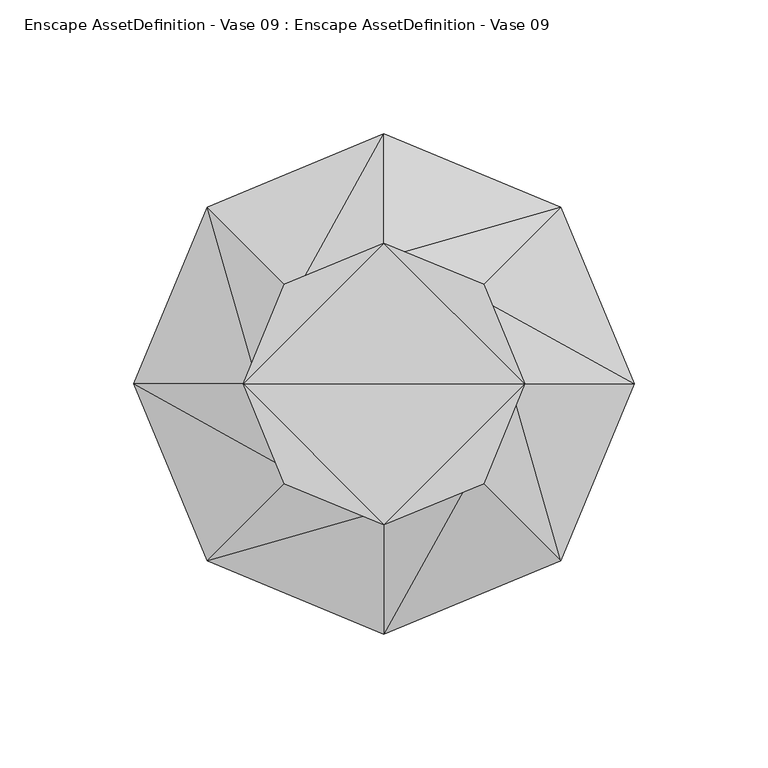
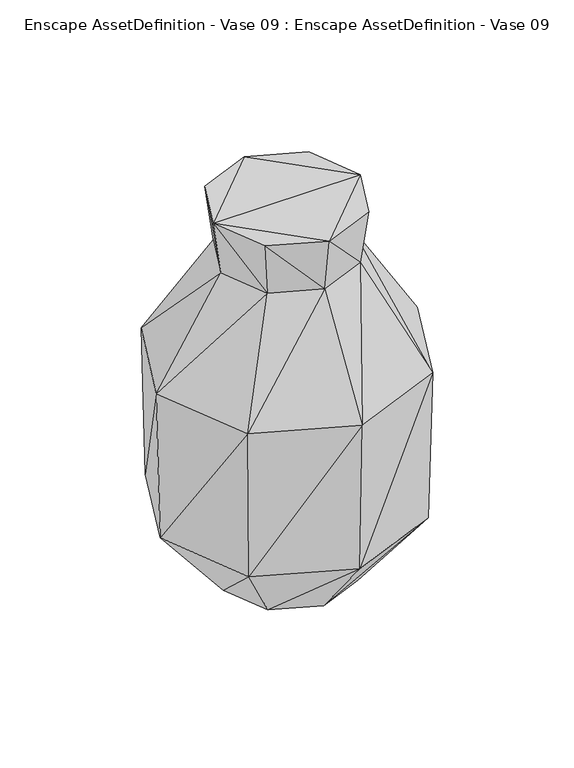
"""IFC4 building model written with IfcOpenShell, lengths in millimetres: geographic element geometry, Enscape AssetDefinition - Vase 09 : Enscape AssetDefinition - Vase 09."""

import ifcopenshell
import ifcopenshell.guid

model = None  # the IFC model being written
_history = None  # IfcOwnerHistory: only IFC2X3 demands one
_inside = {}  # id of a spatial element -> (the spatial element, [elements in it])
_under = {}  # id of a project, library or spatial element -> (it, [spatial elements below it])
_declared = {}  # id of a project -> (the project, [libraries it declares])
_typed = {}  # id of a type object -> (the type object, [elements of that type])
_made_of = {}  # id of a material, layer set ... -> (it, [elements and type objects made of it])


def new_model(schema):
    """Start an empty IFC model of exactly this schema.

    Asked for "IFC4X3", IfcOpenShell would pick the latest addendum, in which some entities
    have other attributes; the version numbers below select the first issue.
    IFC2X3 requires an IfcOwnerHistory on every rooted entity: one is made here for all.
    """
    global model, _history
    if schema == "IFC4X3":
        model = ifcopenshell.file(schema_version=(4, 3, 0, 0))
    else:
        model = ifcopenshell.file(schema=schema)
    _inside.clear()
    _under.clear()
    _declared.clear()
    _typed.clear()
    _made_of.clear()
    _history = None
    if model.schema == "IFC2X3":
        org = make("IfcOrganization", Name="unknown")
        user = make(
            "IfcPersonAndOrganization",
            ThePerson=make("IfcPerson", FamilyName="unknown"),
            TheOrganization=org,
        )
        app = make(
            "IfcApplication",
            ApplicationDeveloper=org,
            Version="unknown",
            ApplicationFullName="unknown",
            ApplicationIdentifier="unknown",
        )
        _history = make(
            "IfcOwnerHistory",
            OwningUser=user,
            OwningApplication=app,
            ChangeAction="ADDED",
            CreationDate=0,
        )
    return model


def make(cls, **values):
    """One entity of the class cls with the attributes given. An attribute that is None is left unset."""
    return model.create_entity(
        cls, **{name: value for name, value in values.items() if value is not None}
    )


def rooted(cls, **values):
    """An entity with a GlobalId (a new one), such as an element, a storey or a relation."""
    return make(cls, GlobalId=ifcopenshell.guid.new(), OwnerHistory=_history, **values)


def si_unit(unit_type, name, prefix=None):
    """IfcSIUnit, for example si_unit("LENGTHUNIT", "METRE", prefix="MILLI")."""
    return make("IfcSIUnit", UnitType=unit_type, Prefix=prefix, Name=name)


def assignment(units):
    """IfcUnitAssignment: the units of a project."""
    return None if units is None else make("IfcUnitAssignment", Units=units)


def point(xyz):
    """IfcCartesianPoint."""
    return None if xyz is None else make("IfcCartesianPoint", Coordinates=xyz)


def direction(xyz):
    """IfcDirection."""
    return None if xyz is None else make("IfcDirection", DirectionRatios=xyz)


def frame(location, z_axis=None, x_axis=None):
    """IfcAxis2Placement3D, a coordinate frame: its origin and axes. An axis left out is left unset."""
    return make(
        "IfcAxis2Placement3D",
        Location=point(location),
        Axis=direction(z_axis),
        RefDirection=direction(x_axis),
    )


def origin():
    """The frame at (0, 0, 0) with its axes left unset."""
    return frame((0.0, 0.0, 0.0))


def place(relative_to, where):
    """IfcLocalPlacement: puts the frame where relative to a parent placement (None: the world)."""
    return make(
        "IfcLocalPlacement", PlacementRelTo=relative_to, RelativePlacement=where
    )


def context(
    kind, dimensions, precision=None, world=None, true_north=None, identifier=None
):
    """IfcGeometricRepresentationContext, for example the 3D "Model" context."""
    return make(
        "IfcGeometricRepresentationContext",
        ContextIdentifier=identifier,
        ContextType=kind,
        CoordinateSpaceDimension=dimensions,
        Precision=precision,
        WorldCoordinateSystem=world,
        TrueNorth=true_north,
    )


def project(units=None, contexts=None):
    """IfcProject with its units and contexts."""
    return rooted(
        "IfcProject",
        Name="project",
        RepresentationContexts=contexts,
        UnitsInContext=assignment(units),
    )


def spatial(cls, under=None, at=None, **own):
    """A site, building, storey or space (cls), placed at a placement, below another one or the project."""
    s = rooted(cls, ObjectPlacement=at, **own)
    if under is not None:
        _under.setdefault(under.id(), (under, []))[1].append(s)
    return s


def faces_of(points, faces, orient=None, outer=None):
    """IfcFace entities. A face is a list of loops; a loop is a list of indices into points, from 0.

    orient and outer hold one flag for each loop. By default every Orientation is true, the
    first loop of a face is its IfcFaceOuterBound and the others are IfcFaceBound.
    """
    made = []
    for i, loops in enumerate(faces):
        bounds = []
        for j, loop in enumerate(loops):
            is_outer = j == 0 if outer is None else outer[i][j]
            bounds.append(
                make(
                    "IfcFaceOuterBound" if is_outer else "IfcFaceBound",
                    Bound=make("IfcPolyLoop", Polygon=[points[k] for k in loop]),
                    Orientation=True if orient is None else orient[i][j],
                )
            )
        made.append(make("IfcFace", Bounds=bounds))
    return made


def faceted_brep(points, faces, orient=None, outer=None, voids=None):
    """IfcFacetedBrep: a solid bounded by flat faces; with voids (closed shells), ...WithVoids."""
    shared = [point(p) for p in points]
    hull = make("IfcClosedShell", CfsFaces=faces_of(shared, faces, orient, outer))
    if voids is None:
        return make("IfcFacetedBrep", Outer=hull)
    return make(
        "IfcFacetedBrepWithVoids",
        Outer=hull,
        Voids=[
            make(cls, CfsFaces=faces_of(shared, fs, o, b)) for cls, fs, o, b in voids
        ],
    )


def shape(context_of_items, identifier, shape_type, items):
    """IfcShapeRepresentation: the items that make up one representation, for example the "Body"."""
    return make(
        "IfcShapeRepresentation",
        ContextOfItems=context_of_items,
        RepresentationIdentifier=identifier,
        RepresentationType=shape_type,
        Items=items,
    )


def source(mapping_origin, context_of_items, identifier, shape_type, items):
    """IfcRepresentationMap: a shape defined once, which mapped items show again and again."""
    return make(
        "IfcRepresentationMap",
        MappingOrigin=mapping_origin,
        MappedRepresentation=shape(context_of_items, identifier, shape_type, items),
    )


def transform(
    local_origin,
    x_axis=None,
    y_axis=None,
    z_axis=None,
    scale=None,
    scale2=None,
    scale3=None,
    uniform=True,
):
    """IfcCartesianTransformationOperator3D, or its non-uniform kind. x_axis, y_axis, z_axis: its Axis1, 2, 3."""
    if uniform:
        return make(
            "IfcCartesianTransformationOperator3D",
            Axis1=direction(x_axis),
            Axis2=direction(y_axis),
            LocalOrigin=point(local_origin),
            Scale=scale,
            Axis3=direction(z_axis),
        )
    return make(
        "IfcCartesianTransformationOperator3DnonUniform",
        Axis1=direction(x_axis),
        Axis2=direction(y_axis),
        LocalOrigin=point(local_origin),
        Scale=scale,
        Axis3=direction(z_axis),
        Scale2=scale2,
        Scale3=scale3,
    )


def mapped(mapping_source, mapping_target):
    """IfcMappedItem: shows the shape of a source again, moved by a transform."""
    return make(
        "IfcMappedItem", MappingSource=mapping_source, MappingTarget=mapping_target
    )


def made_of(thing, what):
    """Note that an element or type object is made of a material, layer set ...; save() writes the relation."""
    if what is not None:
        _made_of.setdefault(what.id(), (what, []))[1].append(thing)
    return thing


def element(
    cls,
    number,
    at=None,
    inside=None,
    cuts=None,
    type_object=None,
    material=None,
    context=None,
    identifier="Body",
    shape_type=None,
    held_by="IfcProductDefinitionShape",
    body=None,
    shapes=None,
    **own,
):
    """One element of the class cls, such as IfcWall. Its Tag is "e" and its number.

    at: its placement. inside: the storey or other place that contains it. cuts: it is an
    opening in that element (IfcRelVoidsElement). A single representation is given by context,
    identifier, shape_type and body (its items); several are given by shapes. held_by: the class
    of the entity that holds the representations. save() writes the other relations.
    """
    e = rooted(cls, Tag="e%d" % number, ObjectPlacement=at, **own)
    if body is not None:
        shapes = [shape(context, identifier, shape_type, body)]
    if shapes is not None:
        e.Representation = make(held_by, Representations=shapes)
    if inside is not None:
        _inside.setdefault(inside.id(), (inside, []))[1].append(e)
    if cuts is not None:
        rooted(
            "IfcRelVoidsElement", RelatingBuildingElement=cuts, RelatedOpeningElement=e
        )
    if type_object is not None:
        _typed.setdefault(type_object.id(), (type_object, []))[1].append(e)
    return made_of(e, material)


def aggregate(whole, parts):
    """IfcRelAggregates: a whole, such as a stair, and the parts it consists of."""
    return rooted("IfcRelAggregates", RelatingObject=whole, RelatedObjects=parts)


def save(model, path):
    """Write the relations noted so far, then the file.

    IfcRelAggregates (storeys below a building ...), IfcRelContainedInSpatialStructure (elements
    in a storey), IfcRelDefinesByType, IfcRelAssociatesMaterial and IfcRelDeclares: one each for
    every whole, place, type object, material and project.
    """
    for whole, parts in _under.values():
        aggregate(whole, parts)
    for where, things in _inside.values():
        rooted(
            "IfcRelContainedInSpatialStructure",
            RelatedElements=things,
            RelatingStructure=where,
        )
    for kind, things in _typed.values():
        rooted("IfcRelDefinesByType", RelatedObjects=things, RelatingType=kind)
    for what, things in _made_of.values():
        rooted("IfcRelAssociatesMaterial", RelatedObjects=things, RelatingMaterial=what)
    for by, libraries in _declared.values():
        rooted("IfcRelDeclares", RelatingContext=by, RelatedDefinitions=libraries)
    model.write(path)


def enscape_assetdefinition_vase_09_enscape_assetdefinition_vase_b8f886cf(model_context):
    return source(origin(), model_context, "Body", "Brep", [
        faceted_brep([(90.3441086, 0.0, 55.3486086), (45.3222804, 0.0, 0.0), (63.7975186, 64.0899688, 55.3486086), (31.9618583, 32.2543047, 0.0), (31.9618583, -32.2543047, 0.0), (-0.292447, 90.6365514, 55.3486086), (65.8045933, 66.097036, 165.5040085), (-0.292447, 93.4748948, 165.5040085), (93.1824446, 0.0, 165.5040085), (63.7975186, -64.0899688, 55.3486086), (33.0324955, 33.324942, 240.5366898), (-0.292447, 47.1290424, 240.5366898), (-66.3894862, 66.097036, 165.5040085), (-33.6173885, 33.324942, 240.5366898), (36.9174331, 37.2098796, 280.0000012), (-0.292447, 52.6224412, 280.0000012), (46.836596, 0.0, 240.5366898), (52.329991, 0.0, 280.0000012), (-37.5023261, 37.2098796, 280.0000012), (-52.9148877, 0.0, 280.0000012), (-47.4214889, 0.0, 240.5366898), (-33.6173885, -33.324942, 240.5366898), (-37.5023261, -37.2098796, 280.0000012), (-0.292447, -52.6224412, 280.0000012), (36.9174331, -37.2098796, 280.0000012), (-0.292447, -47.1290424, 240.5366898), (33.0324955, -33.324942, 240.5366898), (-93.7673375, 0.0, 165.5040085), (-66.3894862, -66.097036, 165.5040085), (-64.382419, 64.0899688, 55.3486086), (-90.9290016, 0.0, 55.3486086), (-64.382419, -64.0899688, 55.3486086), (-0.292447, -93.4748948, 165.5040085), (-0.292447, -90.6365514, 55.3486086), (65.8045933, -66.097036, 165.5040085), (-45.907177, 0.0, 0.0), (-32.5467512, -32.2543047, 0.0), (-32.5467512, 32.2543047, 0.0), (-0.292447, -45.6147306, 0.0), (-0.292447, 45.6147306, 0.0)], [[[0, 1, 2]], [[3, 1, 4]], [[2, 1, 3]], [[0, 4, 1]], [[2, 3, 5]], [[6, 2, 7]], [[6, 0, 2]], [[7, 2, 5]], [[8, 0, 6]], [[9, 4, 0]], [[8, 9, 0]], [[10, 6, 11]], [[10, 8, 6]], [[11, 6, 7]], [[7, 5, 12]], [[11, 7, 13]], [[13, 7, 12]], [[14, 10, 11]], [[15, 11, 13]], [[14, 11, 15]], [[16, 8, 10]], [[17, 16, 10]], [[17, 10, 14]], [[17, 14, 15]], [[15, 13, 18]], [[19, 15, 18]], [[17, 15, 19]], [[13, 12, 20]], [[18, 13, 20]], [[18, 20, 19]], [[19, 20, 21]], [[19, 21, 22]], [[23, 19, 22]], [[17, 19, 23]], [[24, 16, 17]], [[17, 23, 24]], [[23, 25, 26]], [[22, 25, 23]], [[23, 26, 24]], [[22, 21, 25]], [[20, 27, 21]], [[21, 28, 25]], [[21, 27, 28]], [[20, 12, 27]], [[12, 29, 27]], [[27, 30, 28]], [[27, 29, 30]], [[28, 31, 32]], [[28, 30, 31]], [[25, 28, 32]], [[25, 32, 26]], [[32, 33, 34]], [[32, 31, 33]], [[26, 32, 34]], [[30, 35, 31]], [[31, 36, 33]], [[31, 35, 36]], [[29, 37, 30]], [[30, 37, 35]], [[37, 36, 35]], [[33, 36, 38]], [[36, 4, 38]], [[3, 36, 37]], [[3, 4, 36]], [[33, 38, 9]], [[34, 33, 9]], [[9, 38, 4]], [[34, 9, 8]], [[16, 34, 8]], [[26, 34, 16]], [[24, 26, 16]], [[5, 3, 39]], [[3, 37, 39]], [[5, 39, 29]], [[29, 39, 37]], [[12, 5, 29]]]),
    ])


if __name__ == "__main__":
    model = new_model("IFC4")
    model_context = context("Model", 3, world=origin())
    ifc_project = project(units=[si_unit("LENGTHUNIT", "METRE", prefix="MILLI")], contexts=[model_context])
    site = spatial("IfcSite", under=ifc_project)
    building = spatial("IfcBuilding", under=site)
    placement = place(None, origin())
    enscape_assetdefinition_vase_09_enscape_assetdefinition_vase_shape = enscape_assetdefinition_vase_09_enscape_assetdefinition_vase_b8f886cf(model_context)
    element("IfcGeographicElement", 1, ObjectType="Enscape AssetDefinition - Vase 09 : Enscape AssetDefinition - Vase 09", at=placement, inside=building, context=model_context, shape_type="MappedRepresentation", body=[
        mapped(enscape_assetdefinition_vase_09_enscape_assetdefinition_vase_shape, transform((0.0, 0.0, 0.0), x_axis=(1.0, 0.0, 0.0), y_axis=(0.0, 1.0, 0.0), z_axis=(0.0, 0.0, 1.0))),
    ])
    save(model, "model.ifc")
